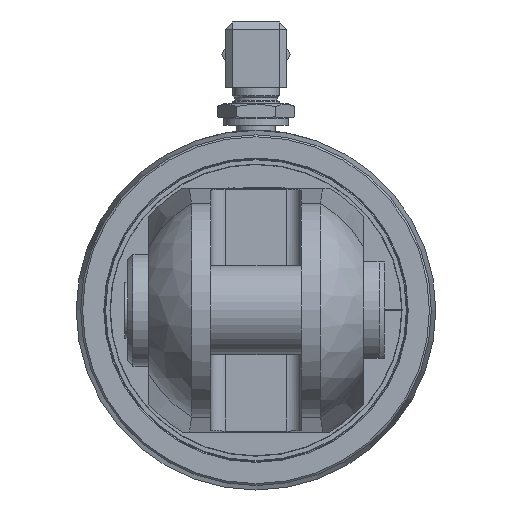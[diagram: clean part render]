
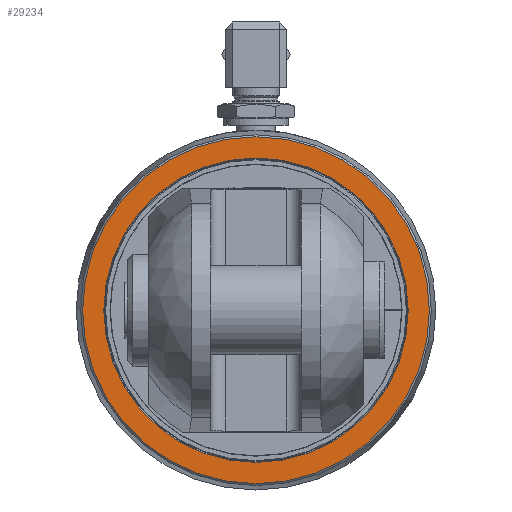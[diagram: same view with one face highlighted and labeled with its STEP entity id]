
A CAD part, left-side view. The second image highlights one B-rep face of the part: STEP entity #29234.
In plain terms, the highlighted planar face has unit normal (-1, 0, 0).
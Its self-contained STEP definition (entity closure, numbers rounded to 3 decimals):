
#845=PLANE('',#31022);
#1744=CIRCLE('',#31019,49.288);
#1746=CIRCLE('',#31023,43.25);
#3521=FACE_BOUND('',#5631,.T.);
#3935=FACE_OUTER_BOUND('',#5630,.T.);
#5630=EDGE_LOOP('',(#21470));
#5631=EDGE_LOOP('',(#21471));
#13993=VERTEX_POINT('',#38473);
#13995=VERTEX_POINT('',#38479);
#16911=EDGE_CURVE('',#13993,#13993,#1744,.T.);
#16913=EDGE_CURVE('',#13995,#13995,#1746,.T.);
#21470=ORIENTED_EDGE('',*,*,#16911,.F.);
#21471=ORIENTED_EDGE('',*,*,#16913,.F.);
#29234=ADVANCED_FACE('',(#3935,#3521),#845,.F.);
#31019=AXIS2_PLACEMENT_3D('',#38474,#32908,#32909);
#31022=AXIS2_PLACEMENT_3D('',#38478,#32914,#32915);
#31023=AXIS2_PLACEMENT_3D('',#38480,#32916,#32917);
#32908=DIRECTION('center_axis',(1.,0.,0.));
#32909=DIRECTION('ref_axis',(0.,-1.,0.));
#32914=DIRECTION('center_axis',(1.,0.,0.));
#32915=DIRECTION('ref_axis',(0.,0.,-1.));
#32916=DIRECTION('center_axis',(-1.,0.,0.));
#32917=DIRECTION('ref_axis',(0.,-1.,0.));
#38473=CARTESIAN_POINT('',(-610.5,49.288,0.));
#38474=CARTESIAN_POINT('Origin',(-610.5,0.,0.));
#38478=CARTESIAN_POINT('Origin',(-610.5,0.,0.));
#38479=CARTESIAN_POINT('',(-610.5,43.25,0.));
#38480=CARTESIAN_POINT('Origin',(-610.5,0.,0.));
